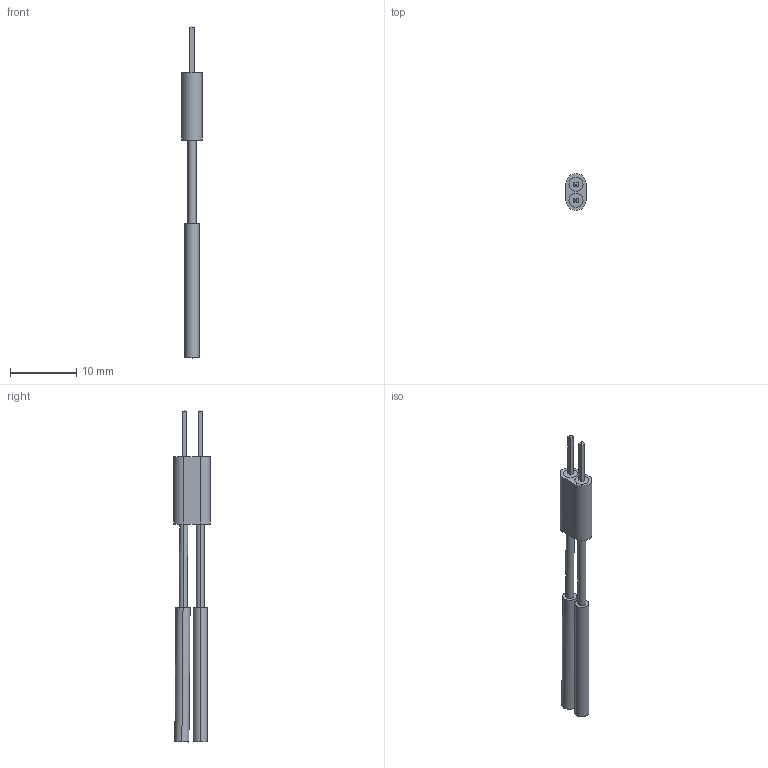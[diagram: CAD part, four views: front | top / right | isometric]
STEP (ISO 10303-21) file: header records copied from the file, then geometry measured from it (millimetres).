
FILE_DESCRIPTION((''),'2;1');
FILE_NAME('196343400_ASM','2026-05-21T11:13:48',('mthomps2'),(''),'CREO PARAMETRIC BY PTC INC, 2022284','CREO PARAMETRIC BY PTC INC, 2022284','');
FILE_SCHEMA(('CONFIG_CONTROL_DESIGN','SHAPE_APPEARANCE_LAYERS_GROUPS'));
Length unit declared in the file: inch
Products named in the file (4): 196343400_2; 196343400_1; 196343400_3; 196343400_ASM
Assembly tree (3 placements, depth 2):
  196343400_ASM
    196343400_2
    196343400_1
    196343400_3
Bounding box: 3.05 x 5.59 x 50.3 mm (x, y, z)
Volume: 406 mm3; surface area: 744 mm2
Topology: 3 solids, 3 shells, 44 faces, 93 edges, 66 vertices
Faces by surface type: plane 30, cylinder 14
Entity records: 1520 total; most frequent: DIRECTION 231, CARTESIAN_POINT 204, COLOUR_RGB 189, ORIENTED_EDGE 176, EDGE_CURVE 88, AXIS2_PLACEMENT_3D 83, VECTOR 65, LINE 65
